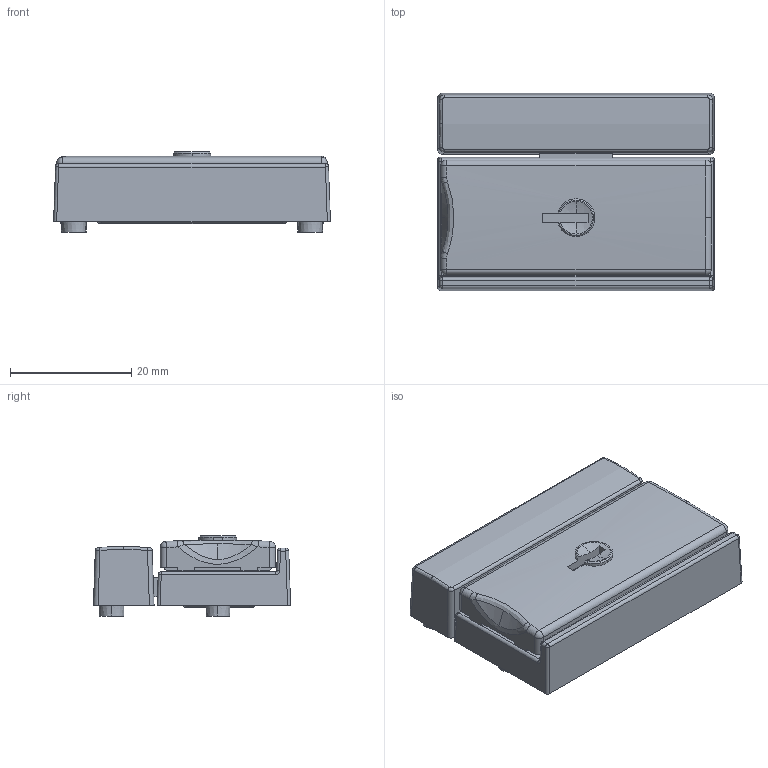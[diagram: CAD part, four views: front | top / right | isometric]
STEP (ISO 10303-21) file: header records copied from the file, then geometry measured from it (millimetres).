
FILE_DESCRIPTION (( 'STEP AP214' ), '1' );
FILE_NAME ('EL-41R.STEP', '2020-03-27T15:58:44', ( '' ), ( '' ), 'SwSTEP 2.0', 'SolidWorks 2019', '' );
FILE_SCHEMA (( 'AUTOMOTIVE_DESIGN' ));
Length unit declared in the file: millimetre
Products named in the file (1): EL-41R
Bounding box: 45.6 x 32.5 x 13.2 mm (x, y, z)
Volume: 14414.5 mm3; surface area: 6176.1 mm2
Topology: 1 solids, 1 shells, 151 faces, 361 edges, 222 vertices
Faces by surface type: plane 59, cylinder 45, cone 13, bspline 13, sphere 13, torus 8
Entity records: 4718 total; most frequent: CARTESIAN_POINT 1251, DIRECTION 723, ORIENTED_EDGE 714, EDGE_CURVE 357, AXIS2_PLACEMENT_3D 268, VERTEX_POINT 222, VECTOR 187, LINE 187
